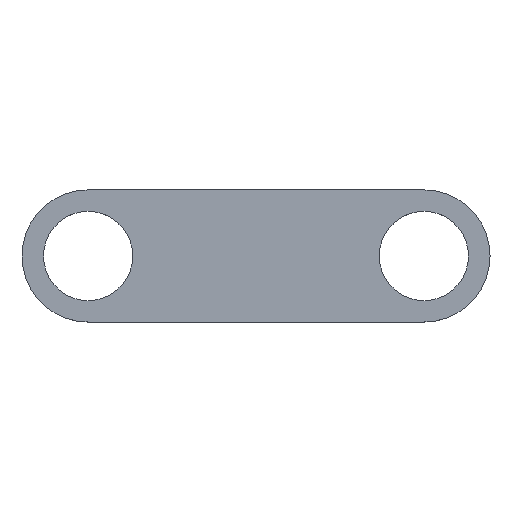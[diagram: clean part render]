
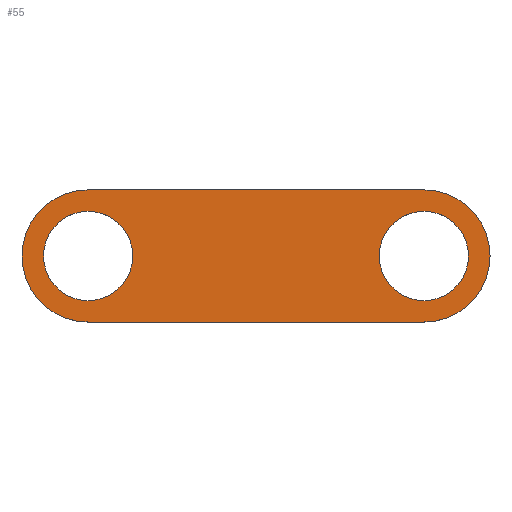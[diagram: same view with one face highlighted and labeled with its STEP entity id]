
A CAD part, top view. The second image highlights one B-rep face of the part: STEP entity #55.
In plain terms, the highlighted planar face has unit normal (0, 0, 1).
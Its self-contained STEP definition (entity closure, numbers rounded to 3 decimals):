
#1 = CARTESIAN_POINT ( 'NONE',  ( -40.303, 0., 8. ) ) ;
#8 = LINE ( 'NONE', #201, #78 ) ;
#12 = EDGE_CURVE ( 'NONE', #277, #179, #100, .T. ) ;
#16 = ORIENTED_EDGE ( 'NONE', *, *, #12, .F. ) ;
#19 = DIRECTION ( 'NONE',  ( 0., 0., 1. ) ) ;
#23 = VERTEX_POINT ( 'NONE', #116 ) ;
#32 = CIRCLE ( 'NONE', #74, 13.5 ) ;
#37 = VERTEX_POINT ( 'NONE', #76 ) ;
#38 = EDGE_CURVE ( 'NONE', #37, #234, #8, .T. ) ;
#43 = DIRECTION ( 'NONE',  ( 0., 0., 1. ) ) ;
#44 = DIRECTION ( 'NONE',  ( 1., 0., 0. ) ) ;
#45 = EDGE_CURVE ( 'NONE', #210, #23, #245, .T. ) ;
#46 = VERTEX_POINT ( 'NONE', #229 ) ;
#53 = DIRECTION ( 'NONE',  ( 1., 0., 0. ) ) ;
#55 = ADVANCED_FACE ( 'NONE', ( #290, #251, #340 ), #77, .T. ) ;
#61 = AXIS2_PLACEMENT_3D ( 'NONE', #144, #43, #143 ) ;
#65 = DIRECTION ( 'NONE',  ( 0., 0., 1. ) ) ;
#66 = ORIENTED_EDGE ( 'NONE', *, *, #110, .T. ) ;
#74 = AXIS2_PLACEMENT_3D ( 'NONE', #1, #19, #53 ) ;
#75 = VERTEX_POINT ( 'NONE', #347 ) ;
#76 = CARTESIAN_POINT ( 'NONE',  ( -40.303, -20., 8. ) ) ;
#77 = PLANE ( 'NONE',  #82 ) ;
#78 = VECTOR ( 'NONE', #44, 1000. ) ;
#82 = AXIS2_PLACEMENT_3D ( 'NONE', #147, #376, #203 ) ;
#88 = ORIENTED_EDGE ( 'NONE', *, *, #247, .T. ) ;
#100 = CIRCLE ( 'NONE', #61, 13.5 ) ;
#109 = DIRECTION ( 'NONE',  ( 0., 0., 1. ) ) ;
#110 = EDGE_CURVE ( 'NONE', #23, #46, #148, .T. ) ;
#114 = ORIENTED_EDGE ( 'NONE', *, *, #361, .T. ) ;
#116 = CARTESIAN_POINT ( 'NONE',  ( -40.303, 20., 8. ) ) ;
#117 = CARTESIAN_POINT ( 'NONE',  ( -53.803, 0., 8. ) ) ;
#138 = CIRCLE ( 'NONE', #322, 20. ) ;
#143 = DIRECTION ( 'NONE',  ( 1., 0., 0. ) ) ;
#144 = CARTESIAN_POINT ( 'NONE',  ( -40.303, 0., 8. ) ) ;
#147 = CARTESIAN_POINT ( 'NONE',  ( -40.303, 0., 8. ) ) ;
#148 = CIRCLE ( 'NONE', #243, 20. ) ;
#150 = CARTESIAN_POINT ( 'NONE',  ( 74.797, 0., 8. ) ) ;
#161 = EDGE_LOOP ( 'NONE', ( #268, #214 ) ) ;
#162 = CARTESIAN_POINT ( 'NONE',  ( 61.297, 0., 8. ) ) ;
#164 = CARTESIAN_POINT ( 'NONE',  ( -26.803, 0., 8. ) ) ;
#165 = EDGE_LOOP ( 'NONE', ( #387, #16 ) ) ;
#171 = CARTESIAN_POINT ( 'NONE',  ( -40.303, 20., 8. ) ) ;
#179 = VERTEX_POINT ( 'NONE', #117 ) ;
#183 = CIRCLE ( 'NONE', #194, 20. ) ;
#184 = EDGE_CURVE ( 'NONE', #179, #277, #32, .T. ) ;
#190 = ORIENTED_EDGE ( 'NONE', *, *, #38, .T. ) ;
#192 = DIRECTION ( 'NONE',  ( 1., 0., 0. ) ) ;
#194 = AXIS2_PLACEMENT_3D ( 'NONE', #272, #65, #364 ) ;
#201 = CARTESIAN_POINT ( 'NONE',  ( -40.303, -20., 8. ) ) ;
#202 = VERTEX_POINT ( 'NONE', #150 ) ;
#203 = DIRECTION ( 'NONE',  ( 1., 0., 0. ) ) ;
#207 = CARTESIAN_POINT ( 'NONE',  ( 61.297, 20., 8. ) ) ;
#208 = EDGE_LOOP ( 'NONE', ( #66, #114, #190, #88, #303 ) ) ;
#210 = VERTEX_POINT ( 'NONE', #207 ) ;
#214 = ORIENTED_EDGE ( 'NONE', *, *, #346, .F. ) ;
#215 = CARTESIAN_POINT ( 'NONE',  ( 61.297, -20., 8. ) ) ;
#229 = CARTESIAN_POINT ( 'NONE',  ( -60.303, 0., 8. ) ) ;
#231 = DIRECTION ( 'NONE',  ( -1., 0., 0. ) ) ;
#234 = VERTEX_POINT ( 'NONE', #215 ) ;
#237 = DIRECTION ( 'NONE',  ( 0., 0., 1. ) ) ;
#243 = AXIS2_PLACEMENT_3D ( 'NONE', #300, #237, #358 ) ;
#244 = DIRECTION ( 'NONE',  ( 0., 0., 1. ) ) ;
#245 = LINE ( 'NONE', #171, #377 ) ;
#246 = DIRECTION ( 'NONE',  ( 0., 0., 1. ) ) ;
#247 = EDGE_CURVE ( 'NONE', #234, #210, #138, .T. ) ;
#251 = FACE_OUTER_BOUND ( 'NONE', #208, .T. ) ;
#268 = ORIENTED_EDGE ( 'NONE', *, *, #389, .F. ) ;
#272 = CARTESIAN_POINT ( 'NONE',  ( -40.303, 0., 8. ) ) ;
#277 = VERTEX_POINT ( 'NONE', #164 ) ;
#290 = FACE_BOUND ( 'NONE', #165, .T. ) ;
#300 = CARTESIAN_POINT ( 'NONE',  ( -40.303, 0., 8. ) ) ;
#303 = ORIENTED_EDGE ( 'NONE', *, *, #45, .T. ) ;
#307 = CARTESIAN_POINT ( 'NONE',  ( 61.297, 0., 8. ) ) ;
#312 = DIRECTION ( 'NONE',  ( 1., 0., 0. ) ) ;
#322 = AXIS2_PLACEMENT_3D ( 'NONE', #360, #246, #330 ) ;
#330 = DIRECTION ( 'NONE',  ( 1., 0., 0. ) ) ;
#333 = AXIS2_PLACEMENT_3D ( 'NONE', #307, #109, #312 ) ;
#340 = FACE_BOUND ( 'NONE', #161, .T. ) ;
#346 = EDGE_CURVE ( 'NONE', #202, #75, #348, .T. ) ;
#347 = CARTESIAN_POINT ( 'NONE',  ( 47.797, 0., 8. ) ) ;
#348 = CIRCLE ( 'NONE', #374, 13.5 ) ;
#358 = DIRECTION ( 'NONE',  ( 1., 0., 0. ) ) ;
#360 = CARTESIAN_POINT ( 'NONE',  ( 61.297, 0., 8. ) ) ;
#361 = EDGE_CURVE ( 'NONE', #46, #37, #183, .T. ) ;
#364 = DIRECTION ( 'NONE',  ( 1., 0., 0. ) ) ;
#367 = CIRCLE ( 'NONE', #333, 13.5 ) ;
#374 = AXIS2_PLACEMENT_3D ( 'NONE', #162, #244, #192 ) ;
#376 = DIRECTION ( 'NONE',  ( 0., 0., 1. ) ) ;
#377 = VECTOR ( 'NONE', #231, 1000. ) ;
#387 = ORIENTED_EDGE ( 'NONE', *, *, #184, .F. ) ;
#389 = EDGE_CURVE ( 'NONE', #75, #202, #367, .T. ) ;
